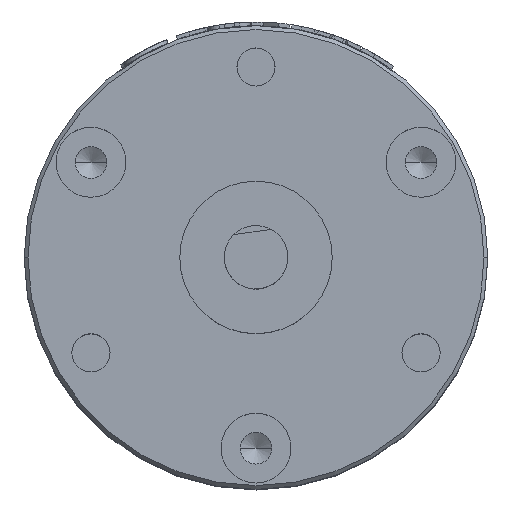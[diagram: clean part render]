
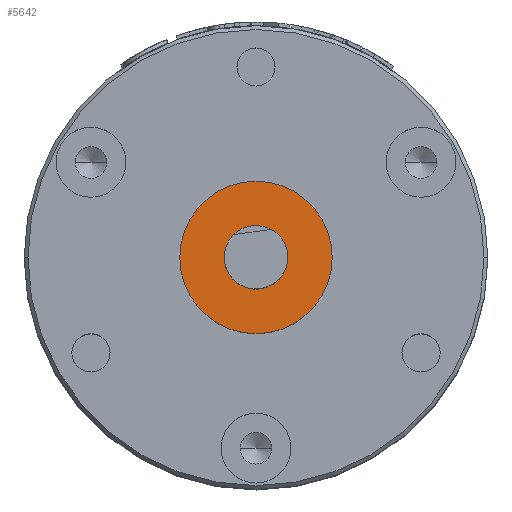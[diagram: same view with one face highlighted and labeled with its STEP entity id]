
A CAD part, top view. The second image highlights one B-rep face of the part: STEP entity #5642.
In plain terms, the highlighted planar face has unit normal (0, 0, 1).
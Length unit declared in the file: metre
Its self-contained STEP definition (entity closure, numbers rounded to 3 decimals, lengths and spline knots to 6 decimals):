
#319 = ORIENTED_EDGE ( 'NONE', *, *, #4962, .T. ) ;
#1180 = DIRECTION ( 'NONE',  ( 0., 0., 1. ) ) ;
#1462 = CARTESIAN_POINT ( 'NONE',  ( 0., 0., 0.004 ) ) ;
#1505 = DIRECTION ( 'NONE',  ( -1., 0., 0. ) ) ;
#1668 = FACE_OUTER_BOUND ( 'NONE', #5098, .T. ) ;
#2945 = AXIS2_PLACEMENT_3D ( 'NONE', #11958, #11964, #11978 ) ;
#4681 = VERTEX_POINT ( 'NONE', #5428 ) ;
#4909 = EDGE_LOOP ( 'NONE', ( #319, #15815 ) ) ;
#4962 = EDGE_CURVE ( 'NONE', #4681, #15385, #10714, .T. ) ;
#5098 = EDGE_LOOP ( 'NONE', ( #12060, #5850 ) ) ;
#5238 = EDGE_CURVE ( 'NONE', #16514, #8028, #14660, .T. ) ;
#5428 = CARTESIAN_POINT ( 'NONE',  ( 0.0025, 0., 0.004 ) ) ;
#5642 = ADVANCED_FACE ( 'NONE', ( #16423, #1668 ), #15822, .T. ) ;
#5850 = ORIENTED_EDGE ( 'NONE', *, *, #5238, .T. ) ;
#6024 = CARTESIAN_POINT ( 'NONE',  ( -0.006, 0., 0.004 ) ) ;
#6858 = CARTESIAN_POINT ( 'NONE',  ( -0.0025, 0., 0.004 ) ) ;
#8028 = VERTEX_POINT ( 'NONE', #6024 ) ;
#8587 = AXIS2_PLACEMENT_3D ( 'NONE', #11197, #18240, #11447 ) ;
#8991 = CARTESIAN_POINT ( 'NONE',  ( 0., 0., 0.004 ) ) ;
#9005 = DIRECTION ( 'NONE',  ( 0., 0., -1. ) ) ;
#9011 = DIRECTION ( 'NONE',  ( 1., 0., 0. ) ) ;
#9918 = CIRCLE ( 'NONE', #17109, 0.006 ) ;
#10464 = AXIS2_PLACEMENT_3D ( 'NONE', #8991, #9005, #9011 ) ;
#10714 = CIRCLE ( 'NONE', #10464, 0.0025 ) ;
#11197 = CARTESIAN_POINT ( 'NONE',  ( 0., 0., 0.004 ) ) ;
#11447 = DIRECTION ( 'NONE',  ( 1., 0., 0. ) ) ;
#11958 = CARTESIAN_POINT ( 'NONE',  ( 0., 0., 0.004 ) ) ;
#11964 = DIRECTION ( 'NONE',  ( 0., 0., 1. ) ) ;
#11978 = DIRECTION ( 'NONE',  ( -1., 0., 0. ) ) ;
#12060 = ORIENTED_EDGE ( 'NONE', *, *, #15583, .T. ) ;
#14660 = CIRCLE ( 'NONE', #2945, 0.006 ) ;
#15385 = VERTEX_POINT ( 'NONE', #6858 ) ;
#15426 = AXIS2_PLACEMENT_3D ( 'NONE', #15903, #16003, #16027 ) ;
#15428 = EDGE_CURVE ( 'NONE', #15385, #4681, #17161, .T. ) ;
#15583 = EDGE_CURVE ( 'NONE', #8028, #16514, #9918, .T. ) ;
#15815 = ORIENTED_EDGE ( 'NONE', *, *, #15428, .T. ) ;
#15822 = PLANE ( 'NONE',  #15426 ) ;
#15903 = CARTESIAN_POINT ( 'NONE',  ( -0.006072, -0.006072, 0.004 ) ) ;
#16003 = DIRECTION ( 'NONE',  ( 0., 0., 1. ) ) ;
#16027 = DIRECTION ( 'NONE',  ( 1., 0., 0. ) ) ;
#16423 = FACE_BOUND ( 'NONE', #4909, .T. ) ;
#16514 = VERTEX_POINT ( 'NONE', #17669 ) ;
#17109 = AXIS2_PLACEMENT_3D ( 'NONE', #1462, #1180, #1505 ) ;
#17161 = CIRCLE ( 'NONE', #8587, 0.0025 ) ;
#17669 = CARTESIAN_POINT ( 'NONE',  ( 0.006, 0., 0.004 ) ) ;
#18240 = DIRECTION ( 'NONE',  ( 0., 0., -1. ) ) ;
